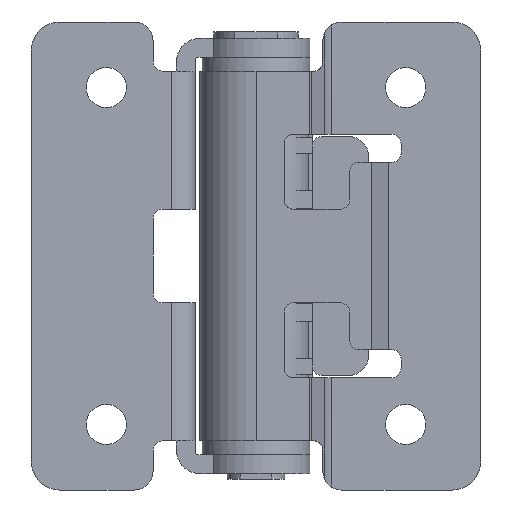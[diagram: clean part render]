
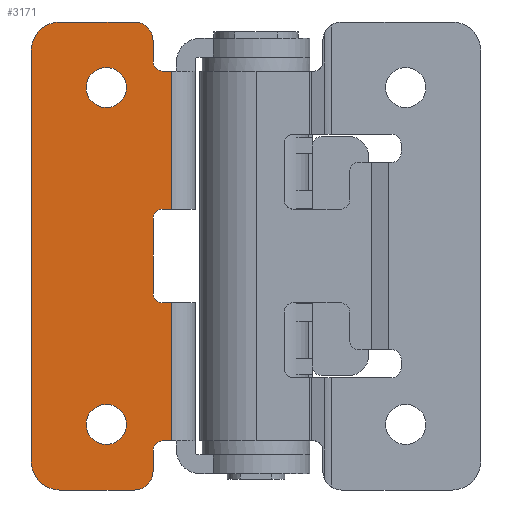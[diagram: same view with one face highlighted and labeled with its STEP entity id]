
A CAD part, front view. The second image highlights one B-rep face of the part: STEP entity #3171.
In plain terms, the highlighted planar face has unit normal (0, -1, 0).
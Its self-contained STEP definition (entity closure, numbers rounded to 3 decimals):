
#118=PLANE('',#3475);
#378=LINE('',#5153,#696);
#398=LINE('',#5212,#716);
#401=LINE('',#5222,#719);
#403=LINE('',#5230,#721);
#407=LINE('',#5239,#725);
#433=LINE('',#5324,#751);
#434=LINE('',#5328,#752);
#435=LINE('',#5329,#753);
#436=LINE('',#5333,#754);
#437=LINE('',#5337,#755);
#438=LINE('',#5338,#756);
#439=LINE('',#5342,#757);
#696=VECTOR('',#4159,1000.);
#716=VECTOR('',#4211,1000.);
#719=VECTOR('',#4220,1000.);
#721=VECTOR('',#4230,1000.);
#725=VECTOR('',#4236,1000.);
#751=VECTOR('',#4314,1000.);
#752=VECTOR('',#4317,1000.);
#753=VECTOR('',#4318,1000.);
#754=VECTOR('',#4321,1000.);
#755=VECTOR('',#4324,1000.);
#756=VECTOR('',#4325,1000.);
#757=VECTOR('',#4328,1000.);
#1548=ORIENTED_EDGE('',*,*,#2137,.F.);
#1549=ORIENTED_EDGE('',*,*,#2138,.F.);
#1550=ORIENTED_EDGE('',*,*,#2083,.T.);
#1551=ORIENTED_EDGE('',*,*,#2139,.T.);
#1552=ORIENTED_EDGE('',*,*,#2096,.T.);
#1553=ORIENTED_EDGE('',*,*,#2140,.T.);
#1554=ORIENTED_EDGE('',*,*,#2141,.T.);
#1555=ORIENTED_EDGE('',*,*,#2142,.F.);
#1556=ORIENTED_EDGE('',*,*,#2143,.T.);
#1557=ORIENTED_EDGE('',*,*,#2088,.F.);
#1558=ORIENTED_EDGE('',*,*,#2144,.T.);
#1559=ORIENTED_EDGE('',*,*,#2145,.F.);
#1560=ORIENTED_EDGE('',*,*,#2146,.T.);
#1561=ORIENTED_EDGE('',*,*,#2147,.F.);
#1562=ORIENTED_EDGE('',*,*,#2148,.T.);
#1563=ORIENTED_EDGE('',*,*,#2053,.F.);
#1564=ORIENTED_EDGE('',*,*,#2149,.T.);
#1565=ORIENTED_EDGE('',*,*,#2150,.F.);
#1566=ORIENTED_EDGE('',*,*,#2151,.T.);
#1567=ORIENTED_EDGE('',*,*,#2152,.T.);
#1568=ORIENTED_EDGE('',*,*,#2092,.F.);
#1569=ORIENTED_EDGE('',*,*,#2153,.T.);
#2053=EDGE_CURVE('',#2412,#2413,#378,.T.);
#2083=EDGE_CURVE('',#2436,#2435,#398,.T.);
#2088=EDGE_CURVE('',#2439,#2438,#401,.T.);
#2092=EDGE_CURVE('',#2442,#2443,#403,.T.);
#2096=EDGE_CURVE('',#2446,#2447,#407,.T.);
#2137=EDGE_CURVE('',#2476,#2476,#2610,.T.);
#2138=EDGE_CURVE('',#2477,#2477,#2611,.T.);
#2139=EDGE_CURVE('',#2435,#2446,#2612,.F.);
#2140=EDGE_CURVE('',#2447,#2478,#2613,.F.);
#2141=EDGE_CURVE('',#2478,#2479,#433,.T.);
#2142=EDGE_CURVE('',#2480,#2479,#2614,.F.);
#2143=EDGE_CURVE('',#2480,#2438,#434,.T.);
#2144=EDGE_CURVE('',#2439,#2481,#435,.T.);
#2145=EDGE_CURVE('',#2482,#2481,#2615,.F.);
#2146=EDGE_CURVE('',#2482,#2483,#436,.T.);
#2147=EDGE_CURVE('',#2484,#2483,#2616,.F.);
#2148=EDGE_CURVE('',#2484,#2413,#437,.T.);
#2149=EDGE_CURVE('',#2412,#2485,#438,.T.);
#2150=EDGE_CURVE('',#2486,#2485,#2617,.F.);
#2151=EDGE_CURVE('',#2486,#2487,#439,.T.);
#2152=EDGE_CURVE('',#2487,#2443,#2618,.F.);
#2153=EDGE_CURVE('',#2442,#2436,#2619,.F.);
#2412=VERTEX_POINT('',#5152);
#2413=VERTEX_POINT('',#5154);
#2435=VERTEX_POINT('',#5211);
#2436=VERTEX_POINT('',#5213);
#2438=VERTEX_POINT('',#5219);
#2439=VERTEX_POINT('',#5221);
#2442=VERTEX_POINT('',#5231);
#2443=VERTEX_POINT('',#5232);
#2446=VERTEX_POINT('',#5240);
#2447=VERTEX_POINT('',#5241);
#2476=VERTEX_POINT('',#5318);
#2477=VERTEX_POINT('',#5320);
#2478=VERTEX_POINT('',#5323);
#2479=VERTEX_POINT('',#5325);
#2480=VERTEX_POINT('',#5327);
#2481=VERTEX_POINT('',#5330);
#2482=VERTEX_POINT('',#5332);
#2483=VERTEX_POINT('',#5334);
#2484=VERTEX_POINT('',#5336);
#2485=VERTEX_POINT('',#5339);
#2486=VERTEX_POINT('',#5341);
#2487=VERTEX_POINT('',#5343);
#2610=CIRCLE('',#3476,2.15);
#2611=CIRCLE('',#3477,2.15);
#2612=CIRCLE('',#3478,3.);
#2613=CIRCLE('',#3479,2.);
#2614=CIRCLE('',#3480,1.);
#2615=CIRCLE('',#3481,1.);
#2616=CIRCLE('',#3482,1.);
#2617=CIRCLE('',#3483,1.);
#2618=CIRCLE('',#3484,2.);
#2619=CIRCLE('',#3485,3.);
#2766=EDGE_LOOP('',(#1548));
#2767=EDGE_LOOP('',(#1549));
#2768=EDGE_LOOP('',(#1550,#1551,#1552,#1553,#1554,#1555,#1556,#1557,#1558,
#1559,#1560,#1561,#1562,#1563,#1564,#1565,#1566,#1567,#1568,#1569));
#2946=FACE_BOUND('',#2766,.T.);
#2947=FACE_BOUND('',#2767,.T.);
#2948=FACE_BOUND('',#2768,.T.);
#3171=ADVANCED_FACE('',(#2946,#2947,#2948),#118,.F.);
#3475=AXIS2_PLACEMENT_3D('',#5316,#4304,#4305);
#3476=AXIS2_PLACEMENT_3D('',#5317,#4306,#4307);
#3477=AXIS2_PLACEMENT_3D('',#5319,#4308,#4309);
#3478=AXIS2_PLACEMENT_3D('',#5321,#4310,#4311);
#3479=AXIS2_PLACEMENT_3D('',#5322,#4312,#4313);
#3480=AXIS2_PLACEMENT_3D('',#5326,#4315,#4316);
#3481=AXIS2_PLACEMENT_3D('',#5331,#4319,#4320);
#3482=AXIS2_PLACEMENT_3D('',#5335,#4322,#4323);
#3483=AXIS2_PLACEMENT_3D('',#5340,#4326,#4327);
#3484=AXIS2_PLACEMENT_3D('',#5344,#4329,#4330);
#3485=AXIS2_PLACEMENT_3D('',#5345,#4331,#4332);
#4159=DIRECTION('',(0.,0.,-1.));
#4211=DIRECTION('',(0.,0.,-1.));
#4220=DIRECTION('',(0.,0.,-1.));
#4230=DIRECTION('',(1.,0.,0.));
#4236=DIRECTION('',(1.,0.,0.));
#4304=DIRECTION('',(0.,1.,0.));
#4305=DIRECTION('',(0.,0.,1.));
#4306=DIRECTION('',(0.,-1.,0.));
#4307=DIRECTION('',(0.,0.,-1.));
#4308=DIRECTION('',(0.,-1.,0.));
#4309=DIRECTION('',(0.,0.,-1.));
#4310=DIRECTION('',(0.,1.,0.));
#4311=DIRECTION('',(0.,0.,1.));
#4312=DIRECTION('',(0.,1.,0.));
#4313=DIRECTION('',(0.,0.,1.));
#4314=DIRECTION('',(0.,0.,1.));
#4315=DIRECTION('',(0.,1.,0.));
#4316=DIRECTION('',(0.,0.,1.));
#4317=DIRECTION('',(1.,0.,0.));
#4318=DIRECTION('',(-1.,0.,0.));
#4319=DIRECTION('',(0.,1.,0.));
#4320=DIRECTION('',(0.,0.,1.));
#4321=DIRECTION('',(0.,0.,1.));
#4322=DIRECTION('',(0.,1.,0.));
#4323=DIRECTION('',(0.,0.,1.));
#4324=DIRECTION('',(1.,0.,0.));
#4325=DIRECTION('',(-1.,0.,0.));
#4326=DIRECTION('',(0.,1.,0.));
#4327=DIRECTION('',(0.,0.,1.));
#4328=DIRECTION('',(0.,0.,1.));
#4329=DIRECTION('',(0.,1.,0.));
#4330=DIRECTION('',(0.,0.,1.));
#4331=DIRECTION('',(0.,1.,0.));
#4332=DIRECTION('',(0.,0.,1.));
#5152=CARTESIAN_POINT('',(-9.,-6.5,19.75));
#5153=CARTESIAN_POINT('',(-9.,-6.5,25.));
#5154=CARTESIAN_POINT('',(-9.,-6.5,5.));
#5211=CARTESIAN_POINT('',(-24.,-6.5,-22.));
#5212=CARTESIAN_POINT('',(-24.,-6.5,25.));
#5213=CARTESIAN_POINT('',(-24.,-6.5,22.));
#5219=CARTESIAN_POINT('',(-9.,-6.5,-19.75));
#5221=CARTESIAN_POINT('',(-9.,-6.5,-5.));
#5222=CARTESIAN_POINT('',(-9.,-6.5,25.));
#5230=CARTESIAN_POINT('',(-24.,-6.5,25.));
#5231=CARTESIAN_POINT('',(-21.,-6.5,25.));
#5232=CARTESIAN_POINT('',(-13.,-6.5,25.));
#5239=CARTESIAN_POINT('',(-24.,-6.5,-25.));
#5240=CARTESIAN_POINT('',(-21.,-6.5,-25.));
#5241=CARTESIAN_POINT('',(-13.,-6.5,-25.));
#5316=CARTESIAN_POINT('',(-24.,-6.5,25.));
#5317=CARTESIAN_POINT('',(-16.,-6.5,-18.));
#5318=CARTESIAN_POINT('',(-16.,-6.5,-20.15));
#5319=CARTESIAN_POINT('',(-16.,-6.5,18.));
#5320=CARTESIAN_POINT('',(-16.,-6.5,15.85));
#5321=CARTESIAN_POINT('',(-21.,-6.5,-22.));
#5322=CARTESIAN_POINT('',(-13.,-6.5,-23.));
#5323=CARTESIAN_POINT('',(-11.,-6.5,-23.));
#5324=CARTESIAN_POINT('',(-11.,-6.5,25.));
#5325=CARTESIAN_POINT('',(-11.,-6.5,-20.75));
#5326=CARTESIAN_POINT('',(-10.,-6.5,-20.75));
#5327=CARTESIAN_POINT('',(-10.,-6.5,-19.75));
#5328=CARTESIAN_POINT('',(-24.,-6.5,-19.75));
#5329=CARTESIAN_POINT('',(-24.,-6.5,-5.));
#5330=CARTESIAN_POINT('',(-10.,-6.5,-5.));
#5331=CARTESIAN_POINT('',(-10.,-6.5,-4.));
#5332=CARTESIAN_POINT('',(-11.,-6.5,-4.));
#5333=CARTESIAN_POINT('',(-11.,-6.5,25.));
#5334=CARTESIAN_POINT('',(-11.,-6.5,4.));
#5335=CARTESIAN_POINT('',(-10.,-6.5,4.));
#5336=CARTESIAN_POINT('',(-10.,-6.5,5.));
#5337=CARTESIAN_POINT('',(-24.,-6.5,5.));
#5338=CARTESIAN_POINT('',(-24.,-6.5,19.75));
#5339=CARTESIAN_POINT('',(-10.,-6.5,19.75));
#5340=CARTESIAN_POINT('',(-10.,-6.5,20.75));
#5341=CARTESIAN_POINT('',(-11.,-6.5,20.75));
#5342=CARTESIAN_POINT('',(-11.,-6.5,25.));
#5343=CARTESIAN_POINT('',(-11.,-6.5,23.));
#5344=CARTESIAN_POINT('',(-13.,-6.5,23.));
#5345=CARTESIAN_POINT('',(-21.,-6.5,22.));
